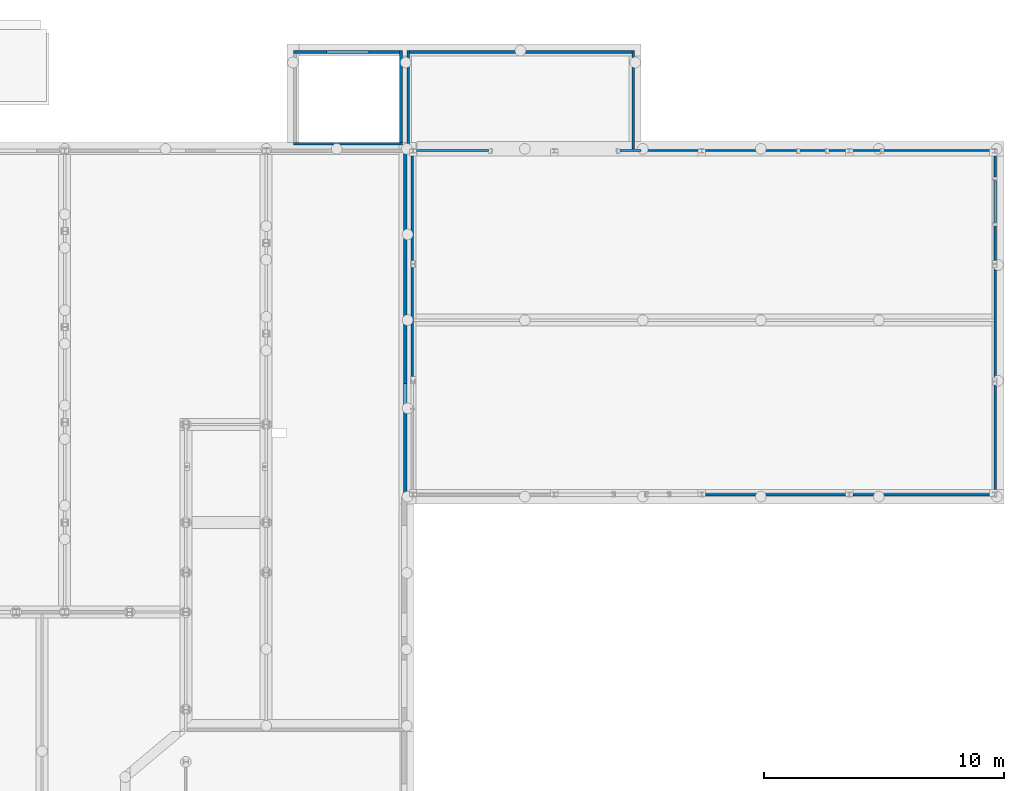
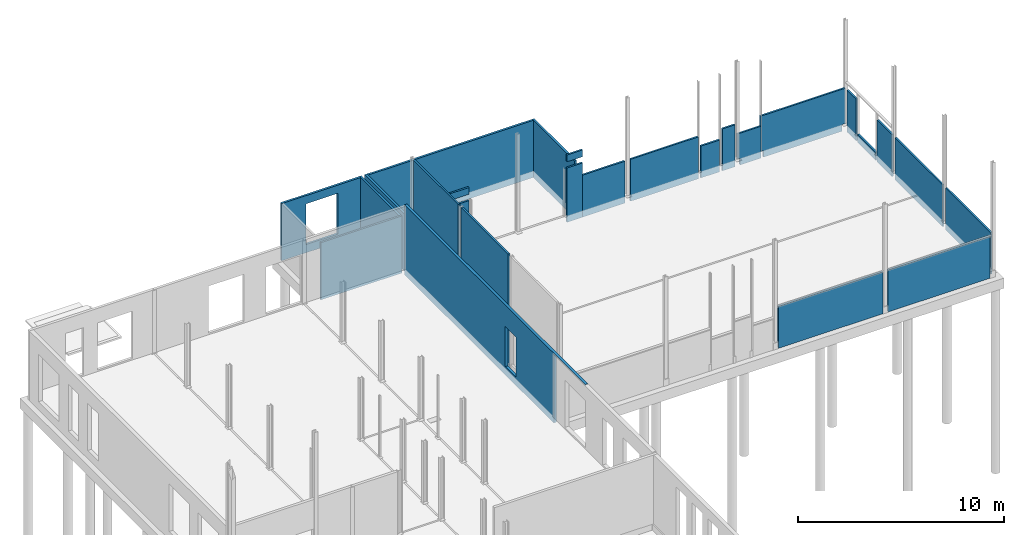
# One storey, part 17 of 18: 26 walls, 8 openings.
"""IFC2X3 building model written with IfcOpenShell, lengths in millimetres."""

from ifc_helpers import new_model, entity, si_unit, converted_unit, derived_unit, direction, frame, frame_2d, origin, origin_2d_with_axis, place, context, subcontext, project, spatial, rectangle, extrude, material, layer, layer_set, layer_usage, type_object, element, save


model = new_model("IFC2X3")

# Units and contexts
model_context = context("Model", 3, precision=0.01, world=origin(), true_north=direction((6.12303176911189e-17, 1.0)))
body_context = subcontext(model_context, "Body", "Model", "MODEL_VIEW")
ifc_project = project(units=[si_unit("LENGTHUNIT", "METRE", prefix="MILLI"), si_unit("AREAUNIT", "SQUARE_METRE"), si_unit("VOLUMEUNIT", "CUBIC_METRE"), converted_unit("PLANEANGLEUNIT", "DEGREE", entity("IfcRatioMeasure", 0.0174532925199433), si_unit("PLANEANGLEUNIT", "RADIAN"), dimensions=[0, 0, 0, 0, 0, 0, 0]), si_unit("MASSUNIT", "GRAM", prefix="KILO"), derived_unit("MASSDENSITYUNIT", [(si_unit("MASSUNIT", "GRAM", prefix="KILO"), 1), (si_unit("LENGTHUNIT", "METRE"), -3)]), derived_unit("MOMENTOFINERTIAUNIT", [(si_unit("LENGTHUNIT", "METRE"), 4)]), si_unit("TIMEUNIT", "SECOND"), si_unit("FREQUENCYUNIT", "HERTZ"), si_unit("THERMODYNAMICTEMPERATUREUNIT", "DEGREE_CELSIUS"), derived_unit("THERMALTRANSMITTANCEUNIT", [(si_unit("MASSUNIT", "GRAM", prefix="KILO"), 1), (si_unit("THERMODYNAMICTEMPERATUREUNIT", "KELVIN"), -1), (si_unit("TIMEUNIT", "SECOND"), -3)]), derived_unit("VOLUMETRICFLOWRATEUNIT", [(si_unit("LENGTHUNIT", "METRE"), 3), (si_unit("TIMEUNIT", "SECOND"), -1)]), si_unit("ELECTRICCURRENTUNIT", "AMPERE"), si_unit("ELECTRICVOLTAGEUNIT", "VOLT"), si_unit("POWERUNIT", "WATT"), si_unit("FORCEUNIT", "NEWTON", prefix="KILO"), si_unit("ILLUMINANCEUNIT", "LUX"), si_unit("LUMINOUSFLUXUNIT", "LUMEN"), si_unit("LUMINOUSINTENSITYUNIT", "CANDELA"), derived_unit("USERDEFINED", [(si_unit("MASSUNIT", "GRAM", prefix="KILO"), -1), (si_unit("LENGTHUNIT", "METRE"), -2), (si_unit("TIMEUNIT", "SECOND"), 3), (si_unit("LUMINOUSFLUXUNIT", "LUMEN"), 1)]), derived_unit("LINEARVELOCITYUNIT", [(si_unit("LENGTHUNIT", "METRE"), 1), (si_unit("TIMEUNIT", "SECOND"), -1)]), si_unit("PRESSUREUNIT", "PASCAL"), derived_unit("USERDEFINED", [(si_unit("LENGTHUNIT", "METRE"), -2), (si_unit("MASSUNIT", "GRAM", prefix="KILO"), 1), (si_unit("TIMEUNIT", "SECOND"), -2)]), derived_unit("LINEARFORCEUNIT", [(si_unit("MASSUNIT", "GRAM", prefix="KILO"), 1), (si_unit("LENGTHUNIT", "METRE"), 1), (si_unit("TIMEUNIT", "SECOND"), -2), (si_unit("LENGTHUNIT", "METRE"), -1)]), derived_unit("PLANARFORCEUNIT", [(si_unit("MASSUNIT", "GRAM", prefix="KILO"), 1), (si_unit("LENGTHUNIT", "METRE"), 1), (si_unit("TIMEUNIT", "SECOND"), -2), (si_unit("LENGTHUNIT", "METRE"), -2)])], contexts=[model_context])

# Site, building, storey
site_placement = place(None, origin())
site = spatial("IfcSite", under=ifc_project, at=site_placement, Name="Default", CompositionType="ELEMENT")
building_placement = place(site_placement, origin())
building = spatial("IfcBuilding", under=site, at=building_placement, CompositionType="ELEMENT")
storey_placement = place(building_placement, frame((0.0, 0.0, -1085.0)))
storey = spatial("IfcBuildingStorey", under=building, at=storey_placement, Name="-00 fundatie", CompositionType="ELEMENT", Elevation=-1085.0)

# Wall, openings
ifc_material_1 = material(Name="f1_kalkzandsteen")
ifc_layer_1 = layer(ifc_material_1, 150.0)
ifc_layer_set_1 = layer_set([ifc_layer_1], Name="Basic Wall:BERSnl_22_WA_kalkzandsteen150")
ifc_layer_usage_1 = layer_usage(ifc_layer_set_1, "AXIS2", "NEGATIVE", 75.0)
wall_type_1 = type_object("IfcWallType", Name="Basic Wall:BERSnl_22_WA_kalkzandsteen150", PredefinedType="STANDARD", material=ifc_layer_set_1)
wall_1_placement = place(storey_placement, frame((34758.4270571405, 17943.5697997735, 600.0), z_axis=(0.0, 0.0, 1.0), x_axis=(0.0, 1.0, 0.0)))
wall_1 = element("IfcWallStandardCase", 1, at=wall_1_placement, inside=storey, type_object=wall_type_1, material=ifc_layer_usage_1, Name="Basic Wall:BERSnl_22_WA_kalkzandsteen150", ObjectType="Basic Wall:BERSnl_22_WA_kalkzandsteen150", context=body_context, shape_type="SweptSolid", body=[
    extrude(rectangle(XDim=17552.7268284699, YDim=150.000000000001, at=frame_2d((8776.36341423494, 9.73443547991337e-13), x_axis=(-1.0, 0.0))), origin(), (0.0, 0.0, 1.0), 4135.0),
])
opening_1_placement = place(wall_1_placement, origin())
element("IfcOpeningElement", 2, at=opening_1_placement, cuts=wall_1, Name="Basic Wall:BERSnl_22_WA_kalkzandsteen150", ObjectType="Opening", context=body_context, shape_type="SweptSolid", body=[
    extrude(rectangle(XDim=2367.00000000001, YDim=1034.0, at=origin_2d_with_axis()), frame((7245.72682846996, -75.0, 1668.4999999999), z_axis=(0.0, 1.0, 0.0), x_axis=(0.0, 0.0, -1.0)), (0.0, 0.0, 1.0), 150.000000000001),
])
opening_2_placement = place(wall_1_placement, origin())
element("IfcOpeningElement", 3, at=opening_2_placement, cuts=wall_1, Name="Basic Wall:BERSnl_22_WA_kalkzandsteen150", ObjectType="Opening", context=body_context, shape_type="SweptSolid", body=[
    extrude(rectangle(XDim=4075.0, YDim=3052.7268284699, at=frame_2d((-5.45696821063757e-12, 1.02318153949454e-12), x_axis=(1.0, 0.0))), frame((1526.36341423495, 75.0, 2037.49999999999), z_axis=(0.0, -1.0, 0.0), x_axis=(0.0, 0.0, -1.0)), (0.0, 0.0, 1.0), 150.0),
])

# Wall, opening
ifc_layer_2 = layer(ifc_material_1, 120.0)
ifc_layer_set_2 = layer_set([ifc_layer_2], Name="Basic Wall:BERSnl_22_WA_kalkzandsteen 120_gen_ISR")
ifc_layer_usage_2 = layer_usage(ifc_layer_set_2, "AXIS2", "POSITIVE", -60.0)
wall_type_2 = type_object("IfcWallType", Name="Basic Wall:BERSnl_22_WA_kalkzandsteen 120_gen_ISR", PredefinedType="STANDARD", material=ifc_layer_set_2)
wall_2_placement = place(storey_placement, frame((30105.4349765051, 39536.2966282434, 600.0)))
wall_2 = element("IfcWallStandardCase", 4, at=wall_2_placement, inside=storey, type_object=wall_type_2, material=ifc_layer_usage_2, Name="Basic Wall:BERSnl_22_WA_kalkzandsteen 120_gen_ISR", ObjectType="Basic Wall:BERSnl_22_WA_kalkzandsteen 120_gen_ISR", context=body_context, shape_type="SweptSolid", body=[
    extrude(rectangle(XDim=4427.99208063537, YDim=120.000000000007, at=frame_2d((2213.99604031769, -1.57740487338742e-12), x_axis=(-1.0, 0.0))), origin(), (0.0, 0.0, 1.0), 3385.0),
])
opening_3_placement = place(wall_2_placement, origin())
element("IfcOpeningElement", 5, at=opening_3_placement, cuts=wall_2, Name="Basic Wall:BERSnl_22_WA_kalkzandsteen 120_gen_ISR", ObjectType="Opening", context=body_context, shape_type="SweptSolid", body=[
    extrude(rectangle(XDim=2415.0000000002, YDim=1770.0, at=frame_2d((0.0, -2.1600499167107e-12), x_axis=(1.0, 0.0))), frame((2265.0, -60.0, 1692.4999999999), z_axis=(0.0, 1.0, 0.0), x_axis=(0.0, 0.0, -1.0)), (0.0, 0.0, 1.0), 120.000000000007),
])

# Walls
ifc_layer_usage_3 = layer_usage(ifc_layer_set_2, "AXIS2", "NEGATIVE", 60.0)
wall_3_placement = place(storey_placement, frame((34893.4270571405, 35496.2966282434, 600.0), z_axis=(0.0, 0.0, 1.0), x_axis=(0.0, 1.0, 0.0)))
element("IfcWallStandardCase", 6, at=wall_3_placement, inside=storey, type_object=wall_type_2, material=ifc_layer_usage_3, Name="Basic Wall:BERSnl_22_WA_kalkzandsteen 120_gen_ISR", ObjectType="Basic Wall:BERSnl_22_WA_kalkzandsteen 120_gen_ISR", context=body_context, shape_type="SweptSolid", body=[
    extrude(rectangle(XDim=4099.99999999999, YDim=119.999999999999, at=frame_2d((2049.99999999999, 0.0), x_axis=(-1.0, 0.0))), origin(), (0.0, 0.0, 1.0), 3385.0),
])
ifc_layer_usage_4 = layer_usage(ifc_layer_set_2, "AXIS2", "NEGATIVE", 60.0)
wall_4_placement = place(storey_placement, frame((34593.4270571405, 35765.9488747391, 600.0), z_axis=(0.0, 0.0, 1.0), x_axis=(0.0, 1.0, 0.0)))
element("IfcWallStandardCase", 7, at=wall_4_placement, inside=storey, type_object=wall_type_2, material=ifc_layer_usage_4, Name="Basic Wall:BERSnl_22_WA_kalkzandsteen 120_gen_ISR", ObjectType="Basic Wall:BERSnl_22_WA_kalkzandsteen 120_gen_ISR", context=body_context, shape_type="SweptSolid", body=[
    extrude(rectangle(XDim=3830.34775350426, YDim=119.999999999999, at=frame_2d((1915.17387675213, 2.62900812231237e-13), x_axis=(-1.0, 0.0))), origin(), (0.0, 0.0, 1.0), 3385.0),
])
ifc_layer_usage_5 = layer_usage(ifc_layer_set_2, "AXIS2", "POSITIVE", -60.0)
wall_5_placement = place(storey_placement, frame((34953.4270571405, 39536.2966282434, 600.0)))
element("IfcWallStandardCase", 8, at=wall_5_placement, inside=storey, type_object=wall_type_2, material=ifc_layer_usage_5, Name="Basic Wall:BERSnl_22_WA_kalkzandsteen 120_gen_ISR", ObjectType="Basic Wall:BERSnl_22_WA_kalkzandsteen 120_gen_ISR", context=body_context, shape_type="SweptSolid", body=[
    extrude(rectangle(XDim=9259.99999999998, YDim=120.000000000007, at=frame_2d((4629.99999999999, 6.18172180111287e-13), x_axis=(-1.0, 0.0))), origin(), (0.0, 0.0, 1.0), 3385.0),
])
ifc_layer_usage_6 = layer_usage(ifc_layer_set_2, "AXIS2", "NEGATIVE", 60.0)
wall_6_placement = place(storey_placement, frame((44273.4270571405, 35496.2966282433, 600.0), z_axis=(0.0, 0.0, 1.0), x_axis=(0.0, 1.0, 0.0)))
element("IfcWallStandardCase", 9, at=wall_6_placement, inside=storey, type_object=wall_type_2, material=ifc_layer_usage_6, Name="Basic Wall:BERSnl_22_WA_kalkzandsteen 120_gen_ISR", ObjectType="Basic Wall:BERSnl_22_WA_kalkzandsteen 120_gen_ISR", context=body_context, shape_type="SweptSolid", body=[
    extrude(rectangle(XDim=4099.99999999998, YDim=120.000000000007, at=frame_2d((2049.99999999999, 2.16360263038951e-12), x_axis=(-1.0, 0.0))), origin(), (0.0, 0.0, 1.0), 3385.0),
])
ifc_layer_3 = layer(ifc_material_1, 100.0)
ifc_layer_set_3 = layer_set([ifc_layer_3], Name="Basic Wall:BERSnl_22_WA_kalkzandsteen 100_gen_ISR")
ifc_layer_usage_7 = layer_usage(ifc_layer_set_3, "AXIS2", "POSITIVE", -50.0)
wall_type_3 = type_object("IfcWallType", Name="Basic Wall:BERSnl_22_WA_kalkzandsteen 100_gen_ISR", PredefinedType="STANDARD", material=ifc_layer_set_3)
wall_7_placement = place(storey_placement, frame((35063.4270571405, 35196.2966282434, 600.0), z_axis=(0.0, 0.0, 1.0), x_axis=(0.0, -1.0, 0.0)))
element("IfcWallStandardCase", 10, at=wall_7_placement, inside=storey, type_object=wall_type_3, material=ifc_layer_usage_7, Name="Basic Wall:BERSnl_22_WA_kalkzandsteen 100_gen_ISR", ObjectType="Basic Wall:BERSnl_22_WA_kalkzandsteen 100_gen_ISR", context=body_context, shape_type="SweptSolid", body=[
    extrude(rectangle(XDim=4350.0, YDim=100.000000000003, at=frame_2d((2175.0, -3.05533376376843e-13), x_axis=(-1.0, 0.0))), origin(), (0.0, 0.0, 1.0), 6855.0),
])
ifc_layer_usage_8 = layer_usage(ifc_layer_set_3, "AXIS2", "NEGATIVE", 50.0)
wall_8_placement = place(storey_placement, frame((35239.4270571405, 35426.2966282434, 600.0)))
element("IfcWallStandardCase", 11, at=wall_8_placement, inside=storey, type_object=wall_type_3, material=ifc_layer_usage_8, Name="Basic Wall:BERSnl_22_WA_kalkzandsteen 100_gen_ISR", ObjectType="Basic Wall:BERSnl_22_WA_kalkzandsteen 100_gen_ISR", context=body_context, shape_type="SweptSolid", body=[
    extrude(rectangle(XDim=3004.0, YDim=100.000000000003, at=frame_2d((1502.0, 0.0), x_axis=(-1.0, 0.0))), origin(), (0.0, 0.0, 1.0), 3213.99999999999),
])
ifc_layer_usage_9 = layer_usage(ifc_layer_set_3, "AXIS2", "NEGATIVE", 50.0)
wall_9_placement = place(storey_placement, frame((44603.4270571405, 35426.2966282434, 600.0)))
element("IfcWallStandardCase", 12, at=wall_9_placement, inside=storey, type_object=wall_type_3, material=ifc_layer_usage_9, Name="Basic Wall:BERSnl_22_WA_kalkzandsteen 100_gen_ISR", ObjectType="Basic Wall:BERSnl_22_WA_kalkzandsteen 100_gen_ISR", context=body_context, shape_type="SweptSolid", body=[
    extrude(rectangle(XDim=2380.00000000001, YDim=100.000000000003, at=frame_2d((1190.00000000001, 0.0), x_axis=(-1.0, 0.0))), origin(), (0.0, 0.0, 1.0), 2484.99999999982),
])
ifc_layer_usage_10 = layer_usage(ifc_layer_set_3, "AXIS2", "POSITIVE", -50.0)
wall_10_placement = place(storey_placement, frame((53133.4270571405, 35426.2966282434, 600.0), z_axis=(0.0, 0.0, 1.0), x_axis=(-1.0, 0.0, 0.0)))
element("IfcWallStandardCase", 13, at=wall_10_placement, inside=storey, type_object=wall_type_3, material=ifc_layer_usage_10, Name="Basic Wall:BERSnl_22_WA_kalkzandsteen 100_gen_ISR", ObjectType="Basic Wall:BERSnl_22_WA_kalkzandsteen 100_gen_ISR", context=body_context, shape_type="SweptSolid", body=[
    extrude(rectangle(XDim=700.000000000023, YDim=100.000000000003, at=frame_2d((350.000000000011, 0.0), x_axis=(-1.0, 0.0))), origin(), (0.0, 0.0, 1.0), 2484.99999999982),
])

# Wall, openings
ifc_layer_usage_11 = layer_usage(ifc_layer_set_3, "AXIS2", "NEGATIVE", 50.0)
wall_11_placement = place(storey_placement, frame((54598.4270571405, 35426.2966282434, 600.0)))
wall_11 = element("IfcWallStandardCase", 14, at=wall_11_placement, inside=storey, type_object=wall_type_3, material=ifc_layer_usage_11, Name="Basic Wall:BERSnl_22_WA_kalkzandsteen 100_gen_ISR", ObjectType="Basic Wall:BERSnl_22_WA_kalkzandsteen 100_gen_ISR", context=body_context, shape_type="SweptSolid", body=[
    extrude(rectangle(XDim=4726.83090140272, YDim=100.000000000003, at=frame_2d((2363.41545070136, 0.0), x_axis=(-1.0, 0.0))), origin(), (0.0, 0.0, 1.0), 2484.9999999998),
])
opening_4_placement = place(wall_11_placement, origin())
element("IfcOpeningElement", 15, at=opening_4_placement, cuts=wall_11, Name="Basic Wall:BERSnl_22_WA_kalkzandsteen 100_gen_ISR", ObjectType="Opening", context=body_context, shape_type="SweptSolid", body=[
    extrude(rectangle(XDim=395.0, YDim=191.830901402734, at=frame_2d((-8.66151594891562e-12, -7.86428699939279e-11), x_axis=(0.0, 1.0))), frame((4630.91545070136, 50.0, 197.499999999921), z_axis=(0.0, -1.0, 0.0), x_axis=(1.0, 0.0, 0.0)), (0.0, 0.0, 1.0), 100.0),
])
opening_5_placement = place(wall_11_placement, origin())
element("IfcOpeningElement", 16, at=opening_5_placement, cuts=wall_11, Name="Basic Wall:BERSnl_22_WA_kalkzandsteen 100_gen_ISR", ObjectType="Opening", context=body_context, shape_type="SweptSolid", body=[
    extrude(rectangle(XDim=394.99999999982, YDim=135.000000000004, at=frame_2d((4.49915660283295e-11, 0.0), x_axis=(1.0, 0.0))), frame((67.500000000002, 50.0, 197.499999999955), z_axis=(0.0, -1.0, 0.0), x_axis=(0.0, 0.0, -1.0)), (0.0, 0.0, 1.0), 100.0),
])

# Walls
ifc_layer_usage_12 = layer_usage(ifc_layer_set_3, "AXIS2", "NEGATIVE", 50.0)
wall_12_placement = place(storey_placement, frame((59363.4270571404, 30846.2966282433, 600.0), z_axis=(0.0, 0.0, 1.0), x_axis=(0.0, 1.0, 0.0)))
element("IfcWallStandardCase", 17, at=wall_12_placement, inside=storey, type_object=wall_type_3, material=ifc_layer_usage_12, Name="Basic Wall:BERSnl_22_WA_kalkzandsteen 100_gen_ISR", ObjectType="Basic Wall:BERSnl_22_WA_kalkzandsteen 100_gen_ISR", context=body_context, shape_type="SweptSolid", body=[
    extrude(rectangle(XDim=1426.0, YDim=99.9999999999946, at=frame_2d((713.0, 0.0), x_axis=(-1.0, 0.0))), origin(), (0.0, 0.0, 1.0), 2484.99999999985),
])
ifc_layer_usage_13 = layer_usage(ifc_layer_set_3, "AXIS2", "POSITIVE", -50.0)
wall_13_placement = place(storey_placement, frame((59363.4270571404, 30546.2966282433, 600.0), z_axis=(0.0, 0.0, 1.0), x_axis=(0.0, -1.0, 0.0)))
element("IfcWallStandardCase", 18, at=wall_13_placement, inside=storey, type_object=wall_type_3, material=ifc_layer_usage_13, Name="Basic Wall:BERSnl_22_WA_kalkzandsteen 100_gen_ISR", ObjectType="Basic Wall:BERSnl_22_WA_kalkzandsteen 100_gen_ISR", context=body_context, shape_type="SweptSolid", body=[
    extrude(rectangle(XDim=4599.99999999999, YDim=99.9999999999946, at=frame_2d((2300.0, -1.91135995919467e-12), x_axis=(-1.0, 0.0))), origin(), (0.0, 0.0, 1.0), 2484.99999999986),
])
ifc_layer_usage_14 = layer_usage(ifc_layer_set_3, "AXIS2", "NEGATIVE", 50.0)
wall_14_placement = place(storey_placement, frame((59363.4270571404, 21296.2966282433, 600.0), z_axis=(0.0, 0.0, 1.0), x_axis=(0.0, 1.0, 0.0)))
element("IfcWallStandardCase", 19, at=wall_14_placement, inside=storey, type_object=wall_type_3, material=ifc_layer_usage_14, Name="Basic Wall:BERSnl_22_WA_kalkzandsteen 100_gen_ISR", ObjectType="Basic Wall:BERSnl_22_WA_kalkzandsteen 100_gen_ISR", context=body_context, shape_type="SweptSolid", body=[
    extrude(rectangle(XDim=4350.0, YDim=99.9999999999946, at=frame_2d((2175.0, 1.57385215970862e-12), x_axis=(-1.0, 0.0))), origin(), (0.0, 0.0, 1.0), 2484.99999999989),
])
ifc_layer_usage_15 = layer_usage(ifc_layer_set_3, "AXIS2", "NEGATIVE", 50.0)
wall_15_placement = place(storey_placement, frame((59133.4270571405, 21066.2966282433, 600.0), z_axis=(0.0, 0.0, 1.0), x_axis=(-1.0, 0.0, 0.0)))
element("IfcWallStandardCase", 20, at=wall_15_placement, inside=storey, type_object=wall_type_3, material=ifc_layer_usage_15, Name="Basic Wall:BERSnl_22_WA_kalkzandsteen 100_gen_ISR", ObjectType="Basic Wall:BERSnl_22_WA_kalkzandsteen 100_gen_ISR", context=body_context, shape_type="SweptSolid", body=[
    extrude(rectangle(XDim=5700.00000000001, YDim=100.000000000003, at=frame_2d((2850.00000000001, -6.03961325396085e-14), x_axis=(-1.0, 0.0))), origin(), (0.0, 0.0, 1.0), 2485.0),
])
ifc_layer_usage_16 = layer_usage(ifc_layer_set_3, "AXIS2", "POSITIVE", -50.0)
wall_16_placement = place(storey_placement, frame((47283.4270571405, 21066.2966282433, 600.0)))
element("IfcWallStandardCase", 21, at=wall_16_placement, inside=storey, type_object=wall_type_3, material=ifc_layer_usage_16, Name="Basic Wall:BERSnl_22_WA_kalkzandsteen 100_gen_ISR", ObjectType="Basic Wall:BERSnl_22_WA_kalkzandsteen 100_gen_ISR", context=body_context, shape_type="SweptSolid", body=[
    extrude(rectangle(XDim=5850.00000000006, YDim=100.000000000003, at=frame_2d((2925.00000000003, -1.63424829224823e-13), x_axis=(-1.0, 0.0))), origin(), (0.0, 0.0, 1.0), 2485.0),
])
ifc_layer_usage_17 = layer_usage(ifc_layer_set_3, "AXIS2", "NEGATIVE", 50.0)
wall_17_placement = place(storey_placement, frame((35063.4270571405, 26006.2966282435, 600.0), z_axis=(0.0, 0.0, 1.0), x_axis=(0.0, 1.0, 0.0)))
element("IfcWallStandardCase", 22, at=wall_17_placement, inside=storey, type_object=wall_type_3, material=ifc_layer_usage_17, Name="Basic Wall:BERSnl_22_WA_kalkzandsteen 100_gen_ISR", ObjectType="Basic Wall:BERSnl_22_WA_kalkzandsteen 100_gen_ISR", context=body_context, shape_type="SweptSolid", body=[
    extrude(rectangle(XDim=4539.99999999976, YDim=100.000000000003, at=frame_2d((2269.99999999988, -6.03961325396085e-14), x_axis=(-1.0, 0.0))), origin(), (0.0, 0.0, 1.0), 6855.0),
])
ifc_layer_usage_18 = layer_usage(ifc_layer_set_3, "AXIS2", "NEGATIVE", 50.0)
wall_18_placement = place(storey_placement, frame((59363.4270571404, 34332.2966282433, 600.0), z_axis=(0.0, 0.0, 1.0), x_axis=(0.0, 1.0, 0.0)))
element("IfcWallStandardCase", 23, at=wall_18_placement, inside=storey, type_object=wall_type_3, material=ifc_layer_usage_18, Name="Basic Wall:BERSnl_22_WA_kalkzandsteen 100_gen_ISR", ObjectType="Basic Wall:BERSnl_22_WA_kalkzandsteen 100_gen_ISR", context=body_context, shape_type="SweptSolid", body=[
    extrude(rectangle(XDim=863.999999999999, YDim=99.9999999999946, at=frame_2d((431.999999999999, 0.0), x_axis=(-1.0, 0.0))), origin(), (0.0, 0.0, 1.0), 2484.99999999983),
])
ifc_layer_usage_19 = layer_usage(ifc_layer_set_3, "AXIS2", "POSITIVE", -50.0)
wall_19_placement = place(storey_placement, frame((51083.2612072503, 35426.2966282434, 600.0), z_axis=(0.0, 0.0, 1.0), x_axis=(-1.0, 0.0, 0.0)))
element("IfcWallStandardCase", 24, at=wall_19_placement, inside=storey, type_object=wall_type_3, material=ifc_layer_usage_19, Name="Basic Wall:BERSnl_22_WA_kalkzandsteen 100_gen_ISR", ObjectType="Basic Wall:BERSnl_22_WA_kalkzandsteen 100_gen_ISR", context=body_context, shape_type="SweptSolid", body=[
    extrude(rectangle(XDim=3799.83415010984, YDim=100.000000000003, at=frame_2d((1899.91707505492, 0.0), x_axis=(-1.0, 0.0))), origin(), (0.0, 0.0, 1.0), 2484.99999999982),
])
ifc_layer_usage_20 = layer_usage(ifc_layer_set_3, "AXIS2", "NEGATIVE", 50.0)
wall_20_placement = place(storey_placement, frame((44603.4270571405, 35426.2966282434, 600.0), z_axis=(0.0, 0.0, 1.0), x_axis=(-1.0, 0.0, 0.0)))
element("IfcWallStandardCase", 25, at=wall_20_placement, inside=storey, type_object=wall_type_3, material=ifc_layer_usage_20, Name="Basic Wall:BERSnl_22_WA_kalkzandsteen 100_gen_ISR", ObjectType="Basic Wall:BERSnl_22_WA_kalkzandsteen 100_gen_ISR", context=body_context, shape_type="SweptSolid", body=[
    extrude(rectangle(XDim=879.999999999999, YDim=100.000000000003, at=frame_2d((440.0, 0.0), x_axis=(-1.0, 0.0))), origin(), (0.0, 0.0, 1.0), 3213.99999999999),
])
ifc_layer_usage_21 = layer_usage(ifc_layer_set_3, "AXIS2", "NEGATIVE", 50.0)
wall_21_placement = place(storey_placement, frame((35239.4270571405, 35426.2966282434, 4185.0)))
element("IfcWallStandardCase", 26, at=wall_21_placement, inside=storey, type_object=wall_type_3, material=ifc_layer_usage_21, Name="Basic Wall:BERSnl_22_WA_kalkzandsteen 100_gen_ISR", ObjectType="Basic Wall:BERSnl_22_WA_kalkzandsteen 100_gen_ISR", context=body_context, shape_type="SweptSolid", body=[
    extrude(rectangle(XDim=3004.0, YDim=100.000000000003, at=frame_2d((1502.0, 0.0), x_axis=(-1.0, 0.0))), origin(), (0.0, 0.0, 1.0), 399.999999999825),
])
ifc_layer_usage_22 = layer_usage(ifc_layer_set_3, "AXIS2", "NEGATIVE", 50.0)
wall_22_placement = place(storey_placement, frame((44603.4270571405, 35426.2966282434, 4185.0), z_axis=(0.0, 0.0, 1.0), x_axis=(-1.0, 0.0, 0.0)))
element("IfcWallStandardCase", 27, at=wall_22_placement, inside=storey, type_object=wall_type_3, material=ifc_layer_usage_22, Name="Basic Wall:BERSnl_22_WA_kalkzandsteen 100_gen_ISR", ObjectType="Basic Wall:BERSnl_22_WA_kalkzandsteen 100_gen_ISR", context=body_context, shape_type="SweptSolid", body=[
    extrude(rectangle(XDim=879.999999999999, YDim=100.000000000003, at=frame_2d((440.0, 0.0), x_axis=(-1.0, 0.0))), origin(), (0.0, 0.0, 1.0), 399.999999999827),
])

# Wall, openings
ifc_layer_usage_23 = layer_usage(ifc_layer_set_3, "AXIS2", "NEGATIVE", 50.0)
wall_23_placement = place(storey_placement, frame((53293.4270571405, 35426.2966282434, 600.0)))
wall_23 = element("IfcWallStandardCase", 28, at=wall_23_placement, inside=storey, type_object=wall_type_3, material=ifc_layer_usage_23, Name="Basic Wall:BERSnl_22_WA_kalkzandsteen 100_gen_ISR", ObjectType="Basic Wall:BERSnl_22_WA_kalkzandsteen 100_gen_ISR", context=body_context, shape_type="SweptSolid", body=[
    extrude(rectangle(XDim=1305.00000000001, YDim=100.000000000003, at=frame_2d((652.500000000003, -2.87769807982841e-13), x_axis=(-1.0, 0.0))), origin(), (0.0, 0.0, 1.0), 2484.99999999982),
])
opening_6_placement = place(wall_23_placement, origin())
element("IfcOpeningElement", 29, at=opening_6_placement, cuts=wall_23, Name="Basic Wall:BERSnl_22_WA_kalkzandsteen 100_gen_ISR", ObjectType="Opening", context=body_context, shape_type="SweptSolid", body=[
    extrude(rectangle(XDim=600.0, YDim=1290.00000000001, at=frame_2d((0.0, 4.32009983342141e-12), x_axis=(1.0, 0.0))), frame((645.0, -50.0, 2185.0), z_axis=(0.0, 1.0, 0.0), x_axis=(0.0, 0.0, -1.0)), (0.0, 0.0, 1.0), 100.000000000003),
])
opening_7_placement = place(wall_23_placement, origin())
element("IfcOpeningElement", 30, at=opening_7_placement, cuts=wall_23, Name="Basic Wall:BERSnl_22_WA_kalkzandsteen 100_gen_ISR", ObjectType="Opening", context=body_context, shape_type="SweptSolid", body=[
    extrude(rectangle(XDim=394.999999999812, YDim=140.000000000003, at=frame_2d((4.68958205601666e-11, 0.0), x_axis=(1.0, 0.0))), frame((70.0, 50.0, 197.499999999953), z_axis=(0.0, -1.0, 0.0), x_axis=(0.0, 0.0, -1.0)), (0.0, 0.0, 1.0), 100.0),
])

# Wall, opening
ifc_layer_usage_24 = layer_usage(ifc_layer_set_3, "AXIS2", "POSITIVE", -50.0)
wall_24_placement = place(storey_placement, frame((52283.4270571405, 35426.2966282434, 600.0), z_axis=(0.0, 0.0, 1.0), x_axis=(-1.0, 0.0, 0.0)))
wall_24 = element("IfcWallStandardCase", 31, at=wall_24_placement, inside=storey, type_object=wall_type_3, material=ifc_layer_usage_24, Name="Basic Wall:BERSnl_22_WA_kalkzandsteen 100_gen_ISR", ObjectType="Basic Wall:BERSnl_22_WA_kalkzandsteen 100_gen_ISR", context=body_context, shape_type="SweptSolid", body=[
    extrude(rectangle(XDim=1050.16584989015, YDim=100.000000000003, at=frame_2d((525.082924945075, 0.0), x_axis=(-1.0, 0.0))), origin(), (0.0, 0.0, 1.0), 1884.99999999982),
])
opening_8_placement = place(wall_24_placement, origin())
element("IfcOpeningElement", 32, at=opening_8_placement, cuts=wall_24, Name="Basic Wall:BERSnl_22_WA_kalkzandsteen 100_gen_ISR", ObjectType="Opening", context=body_context, shape_type="SweptSolid", body=[
    extrude(rectangle(XDim=600.0, YDim=1050.16584989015, at=frame_2d((-1.4210854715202e-13, 0.0), x_axis=(1.0, 0.0))), frame((525.082924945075, -50.0, 2185.0), z_axis=(0.0, 1.0, 0.0), x_axis=(0.0, 0.0, -1.0)), (0.0, 0.0, 1.0), 100.000000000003),
])

# Walls
ifc_layer_usage_25 = layer_usage(ifc_layer_set_3, "AXIS2", "NEGATIVE", 50.0)
wall_25_placement = place(storey_placement, frame((59363.4270571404, 32422.2966282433, 600.0), z_axis=(0.0, 0.0, 1.0), x_axis=(0.0, 1.0, 0.0)))
element("IfcWallStandardCase", 33, at=wall_25_placement, inside=storey, type_object=wall_type_3, material=ifc_layer_usage_25, Name="Basic Wall:BERSnl_22_WA_kalkzandsteen 100_gen_ISR", ObjectType="Basic Wall:BERSnl_22_WA_kalkzandsteen 100_gen_ISR", context=body_context, shape_type="SweptSolid", body=[
    extrude(rectangle(XDim=1760.0, YDim=99.9999999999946, at=frame_2d((879.999999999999, 0.0), x_axis=(-1.0, 0.0))), origin(), (0.0, 0.0, 1.0), 485.0),
])
ifc_material_2 = material(Name="g2_metselwerk bruin")
ifc_layer_4 = layer(ifc_material_2, 100.0)
ifc_layer_set_4 = layer_set([ifc_layer_4], Name="Basic Wall:BERSnl_21_WA_metselwerk 100_gen_ISR")
ifc_layer_usage_26 = layer_usage(ifc_layer_set_4, "AXIS2", "NEGATIVE", 50.0)
wall_type_4 = type_object("IfcWallType", Name="Basic Wall:BERSnl_21_WA_metselwerk 100_gen_ISR", PredefinedType="STANDARD", material=ifc_layer_set_4)
wall_26_placement = place(storey_placement, frame((30105.4349765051, 35715.9488747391, 600.0)))
element("IfcWallStandardCase", 34, at=wall_26_placement, inside=storey, type_object=wall_type_4, material=ifc_layer_usage_26, Name="Basic Wall:BERSnl_21_WA_metselwerk 100_gen_ISR", ObjectType="Basic Wall:BERSnl_21_WA_metselwerk 100_gen_ISR", context=body_context, shape_type="SweptSolid", body=[
    extrude(rectangle(XDim=4547.99208063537, YDim=100.000000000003, at=frame_2d((2273.99604031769, 6.03961325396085e-14), x_axis=(-1.0, 0.0))), origin(), (0.0, 0.0, 1.0), 3385.0),
])

save(model, "model.ifc")
